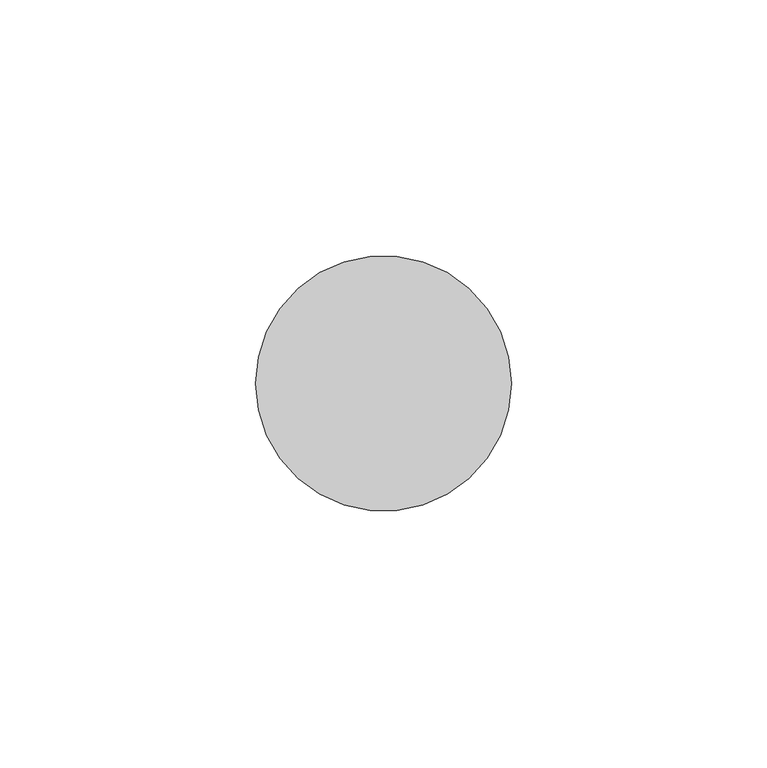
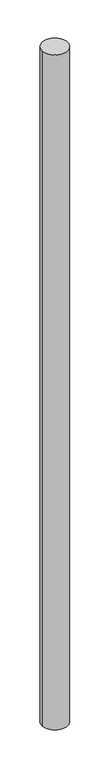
"""IFC4 building model written with IfcOpenShell, lengths in millimetres: member geometry, 圓形豎框 : 25mm 半徑."""

from ifc_helpers import new_model, si_unit, point, frame, origin, origin_2d, place, context, project, spatial, circle_curve, trimmed, segment, composite_curve, outline, extrude, source, transform, mapped, element, save


def member_40f360b9(model_context):
    return source(origin(), model_context, "Body", "SweptSolid", [
        extrude(outline(composite_curve([segment(trimmed(circle_curve(origin_2d(), 25.0), [point((25.0, 0.0))], [point((-25.0, 0.0))], False, "CARTESIAN"), True, "CONTINUOUS"), segment(trimmed(circle_curve(origin_2d(), 25.0), [point((-25.0, 0.0))], [point((25.0, 0.0))], False, "CARTESIAN"), True, "CONTINUOUS")], self_intersect=False)), frame((0.0, 0.0, -1396.295518), z_axis=(0.0, 0.0, 1.0), x_axis=(1.0, 0.0, 0.0)), (0.0, 0.0, 1.0), 1396.295518),
    ])


if __name__ == "__main__":
    model = new_model("IFC4")
    model_context = context("Model", 3, world=origin())
    ifc_project = project(units=[si_unit("LENGTHUNIT", "METRE", prefix="MILLI")], contexts=[model_context])
    site = spatial("IfcSite", under=ifc_project)
    building = spatial("IfcBuilding", under=site)
    placement = place(None, origin())
    member_shape = member_40f360b9(model_context)
    element("IfcMember", 1, ObjectType="圓形豎框 : 25mm 半徑", at=placement, inside=building, context=model_context, shape_type="MappedRepresentation", body=[
        mapped(member_shape, transform((0.0, 0.0, 0.0), x_axis=(1.0, 0.0, 0.0), y_axis=(0.0, 1.0, 0.0), z_axis=(0.0, 0.0, 1.0))),
    ])
    save(model, "model.ifc")
